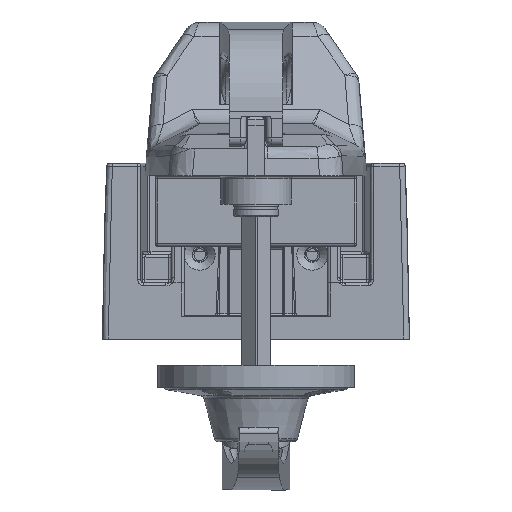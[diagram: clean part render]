
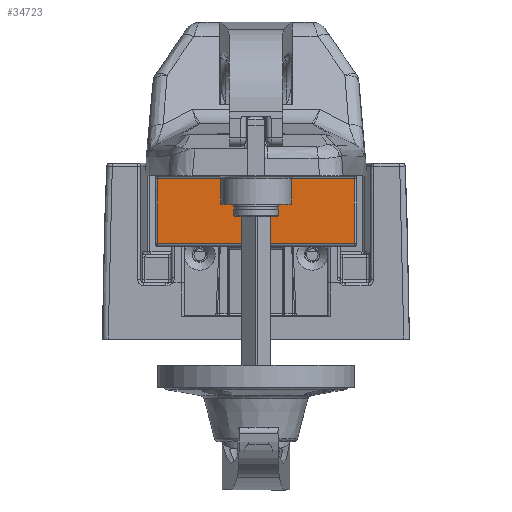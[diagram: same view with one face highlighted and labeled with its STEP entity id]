
A CAD part, front view. The second image highlights one B-rep face of the part: STEP entity #34723.
In plain terms, the highlighted planar face has unit normal (0, -1, 0).
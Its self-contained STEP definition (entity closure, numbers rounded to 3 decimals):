
#2721=PLANE('',#38260);
#4017=LINE('',#64270,#5877);
#4018=LINE('',#64272,#5878);
#4019=LINE('',#64550,#5879);
#4121=LINE('',#65215,#5981);
#5877=VECTOR('',#45320,23.);
#5878=VECTOR('',#45323,69.74);
#5879=VECTOR('',#45328,23.);
#5981=VECTOR('',#45662,69.74);
#8943=FACE_OUTER_BOUND('',#11565,.T.);
#11565=EDGE_LOOP('',(#28356,#28357,#28358,#28359));
#17036=VERTEX_POINT('',#62616);
#17130=VERTEX_POINT('',#63132);
#17134=VERTEX_POINT('',#63174);
#17230=VERTEX_POINT('',#64220);
#21084=EDGE_CURVE('',#17230,#17130,#4017,.T.);
#21085=EDGE_CURVE('',#17130,#17134,#4018,.T.);
#21087=EDGE_CURVE('',#17134,#17036,#4019,.T.);
#21259=EDGE_CURVE('',#17230,#17036,#4121,.T.);
#28356=ORIENTED_EDGE('',*,*,#21084,.F.);
#28357=ORIENTED_EDGE('',*,*,#21259,.T.);
#28358=ORIENTED_EDGE('',*,*,#21087,.F.);
#28359=ORIENTED_EDGE('',*,*,#21085,.F.);
#34723=ADVANCED_FACE('',(#8943),#2721,.F.);
#38260=AXIS2_PLACEMENT_3D('',#65214,#45660,#45661);
#45320=DIRECTION('',(0.,0.,1.));
#45323=DIRECTION('',(1.,0.,0.));
#45328=DIRECTION('',(0.,0.,-1.));
#45660=DIRECTION('center_axis',(0.,1.,0.));
#45661=DIRECTION('ref_axis',(-1.,0.,0.));
#45662=DIRECTION('',(1.,0.,0.));
#62616=CARTESIAN_POINT('',(190.731,420.69,19.354));
#63132=CARTESIAN_POINT('',(120.99,420.69,42.354));
#63174=CARTESIAN_POINT('',(190.731,420.69,42.354));
#64220=CARTESIAN_POINT('',(120.99,420.69,19.354));
#64270=CARTESIAN_POINT('',(120.99,420.69,43.354));
#64272=CARTESIAN_POINT('',(191.778,420.69,42.354));
#64550=CARTESIAN_POINT('',(190.731,420.69,43.354));
#65214=CARTESIAN_POINT('Origin',(191.778,420.69,43.354));
#65215=CARTESIAN_POINT('',(191.778,420.69,19.354));
